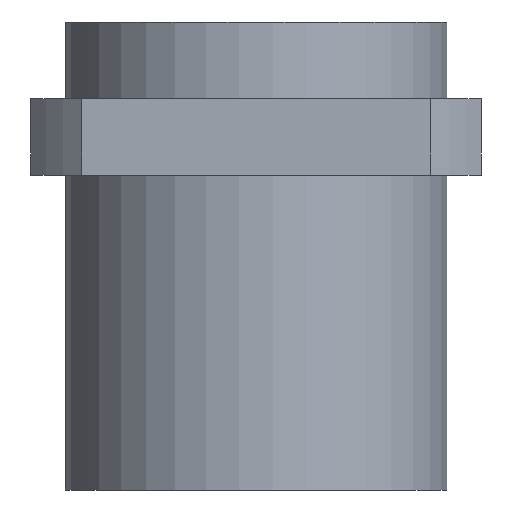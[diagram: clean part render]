
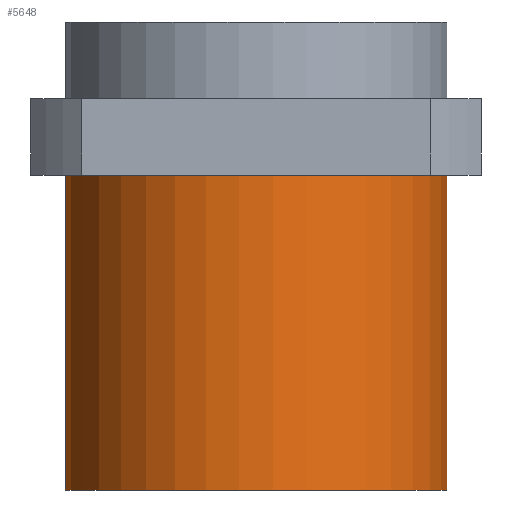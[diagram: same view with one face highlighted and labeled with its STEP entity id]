
A CAD part, front view. The second image highlights one B-rep face of the part: STEP entity #5648.
In plain terms, the highlighted cylindrical face has radius 45 mm (diameter 90 mm), a full revolution.
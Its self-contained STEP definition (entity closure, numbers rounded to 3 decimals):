
#86=CYLINDRICAL_SURFACE('',#6022,45.);
#103=CIRCLE('',#5989,45.);
#127=CIRCLE('',#6023,45.);
#545=ORIENTED_EDGE('',*,*,#2163,.T.);
#546=ORIENTED_EDGE('',*,*,#2001,.T.);
#2001=EDGE_CURVE('',#2814,#2814,#103,.F.);
#2163=EDGE_CURVE('',#2968,#2968,#127,.T.);
#2814=VERTEX_POINT('',#8194);
#2968=VERTEX_POINT('',#8999);
#4620=EDGE_LOOP('',(#545));
#4621=EDGE_LOOP('',(#546));
#5033=FACE_BOUND('',#4620,.T.);
#5034=FACE_BOUND('',#4621,.T.);
#5648=ADVANCED_FACE('',(#5033,#5034),#86,.T.);
#5989=AXIS2_PLACEMENT_3D('',#8193,#6392,#6393);
#6022=AXIS2_PLACEMENT_3D('',#8997,#6570,#6571);
#6023=AXIS2_PLACEMENT_3D('',#8998,#6572,#6573);
#6392=DIRECTION('',(0.,0.,1.));
#6393=DIRECTION('',(0.707,-0.707,0.));
#6570=DIRECTION('',(0.,0.,1.));
#6571=DIRECTION('',(0.707,-0.707,0.));
#6572=DIRECTION('',(0.,0.,1.));
#6573=DIRECTION('',(0.707,-0.707,0.));
#8193=CARTESIAN_POINT('',(0.,0.,-18.));
#8194=CARTESIAN_POINT('',(31.82,-31.82,-18.));
#8997=CARTESIAN_POINT('',(0.,0.,-92.));
#8998=CARTESIAN_POINT('',(0.,0.,-92.));
#8999=CARTESIAN_POINT('',(31.82,-31.82,-92.));
